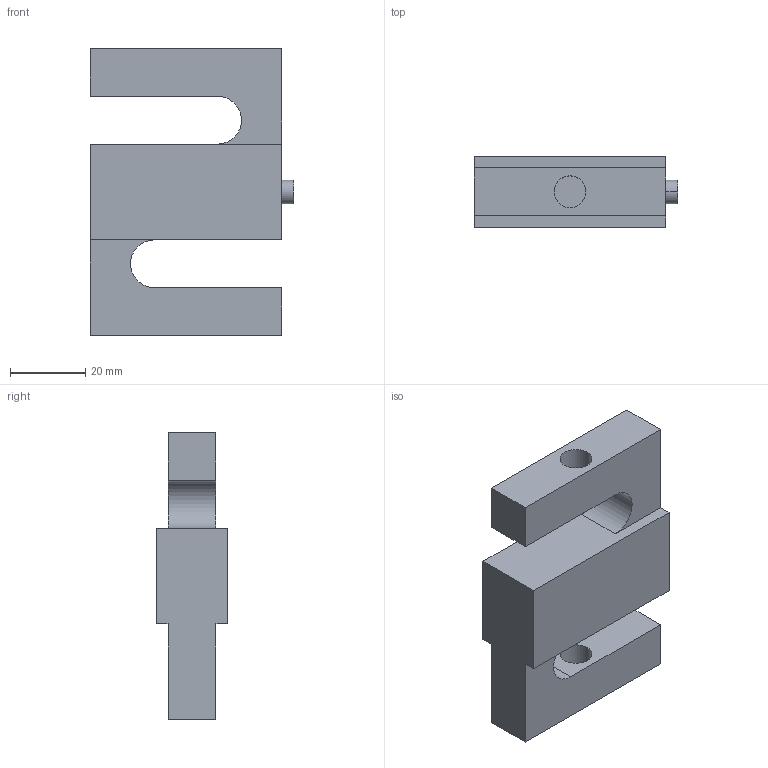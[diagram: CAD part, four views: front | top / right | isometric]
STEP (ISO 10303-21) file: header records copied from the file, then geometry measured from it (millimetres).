
FILE_DESCRIPTION (( 'STEP AP214' ), '1' );
FILE_NAME ('SS1009-250LB.STEP', '2014-05-20T18:52:11', ( '' ), ( '' ), 'SwSTEP 2.0', 'SolidWorks 2008', '' );
FILE_SCHEMA (( 'AUTOMOTIVE_DESIGN' ));
Length unit declared in the file: inch
Products named in the file (1): SS1009-250LB
Bounding box: 53.98 x 19.05 x 76.2 mm (x, y, z)
Volume: 43530.5 mm3; surface area: 12379.1 mm2
Topology: 1 solids, 1 shells, 25 faces, 66 edges, 44 vertices
Faces by surface type: plane 17, cylinder 8
Entity records: 863 total; most frequent: CARTESIAN_POINT 136, DIRECTION 134, ORIENTED_EDGE 132, EDGE_CURVE 66, LINE 50, VECTOR 50, VERTEX_POINT 44, AXIS2_PLACEMENT_3D 42
